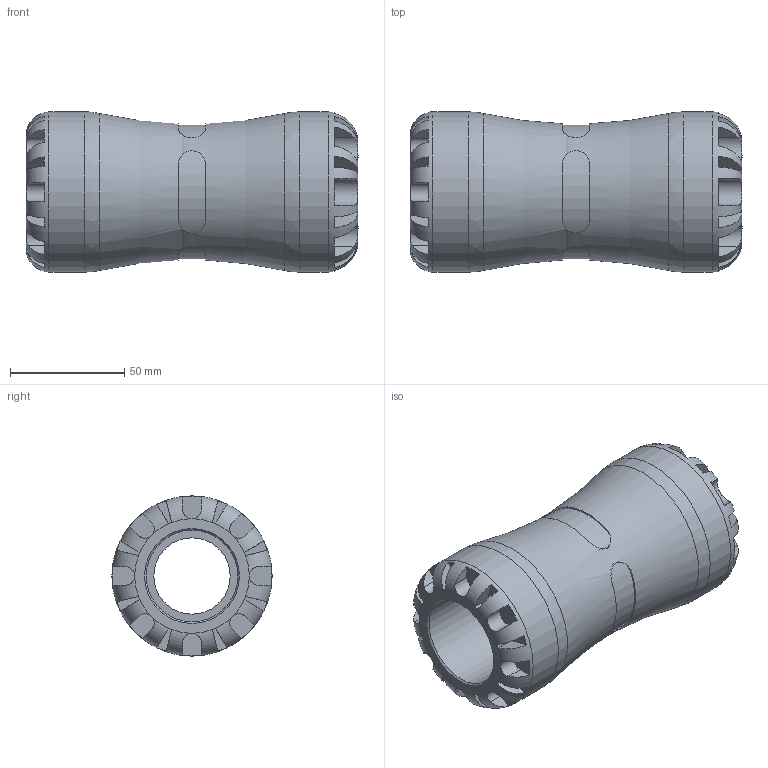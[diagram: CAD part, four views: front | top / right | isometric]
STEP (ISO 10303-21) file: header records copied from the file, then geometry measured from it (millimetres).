
FILE_DESCRIPTION(/* description */ ('PLASSON PVC TO PE COUPLER 40 SERIES 1'),/* implementation_level */ '2;1');
FILE_NAME(/* name */ 'C:\Dropbox\KIMPROJECTS-Inventor\99-16-3568-Processing\1001Q\1001Q0040_1901Q0040.ipt.stp',/* time_stamp */ '2017-01-22T10:45:35+02:00',/* author */ ('KIM'),/* organization */ (''),/* preprocessor_version */ 'ST-DEVELOPER v15.6',/* originating_system */ 'Autodesk Inventor 2015',/* authorisation */ '');
FILE_SCHEMA (('AUTOMOTIVE_DESIGN { 1 0 10303 214 3 1 1 }'));
Length unit declared in the file: millimetre
Products named in the file (1): 1001Q0040_1901Q0040
Bounding box: 145 x 70 x 70 mm (x, y, z)
Volume: 285673.7 mm3; surface area: 57075.2 mm2
Topology: 1 solids, 1 shells, 164 faces, 419 edges, 262 vertices
Faces by surface type: plane 108, cylinder 49, torus 3, cone 2, bspline 2
Full cylindrical faces by diameter (mm): 33.333 x1, 40 x2, 70 x2
Entity records: 6410 total; most frequent: CARTESIAN_POINT 2441, ORIENTED_EDGE 808, DIRECTION 762, EDGE_CURVE 404, AXIS2_PLACEMENT_3D 309, VERTEX_POINT 258, EDGE_LOOP 182, STYLED_ITEM 165
